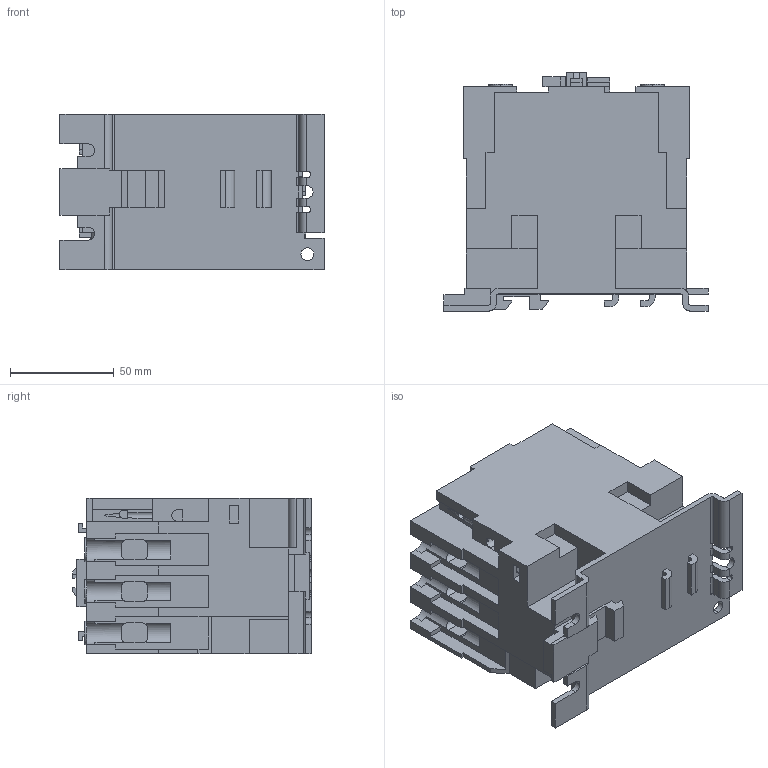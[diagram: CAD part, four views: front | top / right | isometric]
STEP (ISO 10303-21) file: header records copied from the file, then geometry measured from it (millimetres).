
FILE_DESCRIPTION (( 'STEP AP214' ), '1' );
FILE_NAME ('ﾏﾌﾋ-3100.STEP', '2015-10-14T11:07:00', ( 'admin' ), ( '' ), 'SwSTEP 2.0', 'SolidWorks 2012', '' );
FILE_SCHEMA (( 'AUTOMOTIVE_DESIGN' ));
Length unit declared in the file: millimetre
Products named in the file (1): ﾏﾌﾋ-3100
Bounding box: 127 x 114.7 x 75 mm (x, y, z)
Volume: 663260.8 mm3; surface area: 82462.1 mm2
Topology: 1 solids, 1 shells, 710 faces, 1994 edges, 1321 vertices
Faces by surface type: plane 533, cylinder 158, cone 18, bspline 1
Entity records: 23083 total; most frequent: CARTESIAN_POINT 4431, ORIENTED_EDGE 3988, DIRECTION 3764, EDGE_CURVE 1994, LINE 1488, VECTOR 1488, VERTEX_POINT 1321, AXIS2_PLACEMENT_3D 1138
